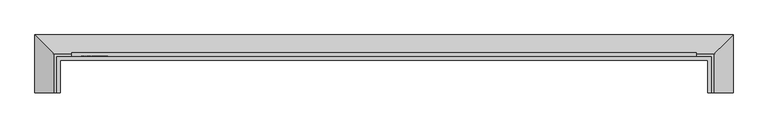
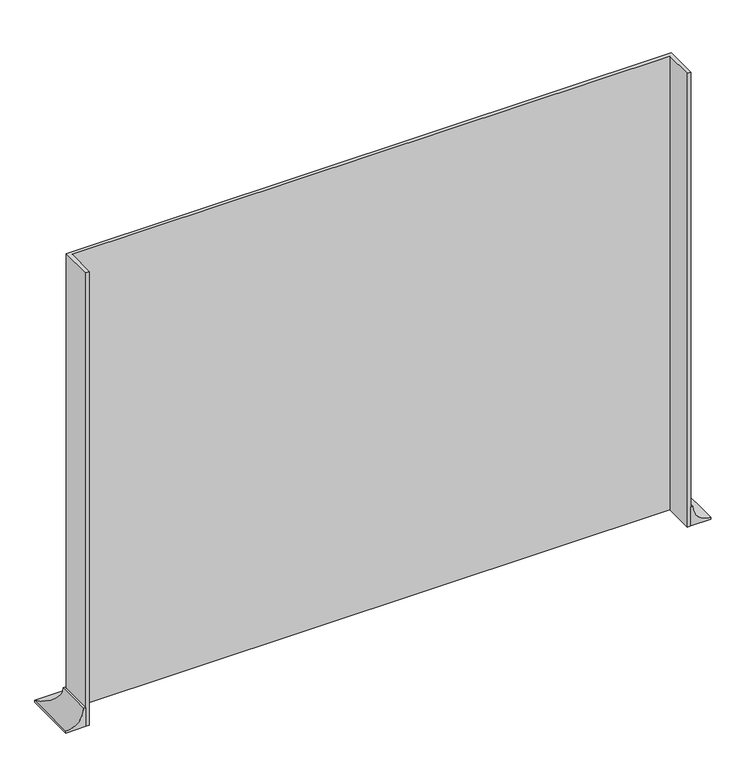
"""IFC4 building model written with IfcOpenShell, lengths in millimetres: furniture geometry, BIMHealth-Washstation_Dirty_Utility-LOD2A-v1 : BIMHealth-Washstation_Dirty_Utility-LOD2A-v1."""

from ifc_helpers import new_model, si_unit, frame, origin, origin_with_axes, place, context, project, spatial, polyline, circle_curve, ellipse_curve, outline, extrude, source, transform, mapped, element, save
from ifc_brep_helpers import plane_surface, revolved_surface, advanced_brep


def furniture_7d07dcaf(model_context):
    return source(origin(), model_context, "Body", "SolidModel", [
        advanced_brep(
        [(-900.0, 0.0, 100.0), (-910.0, 0.0, 100.0), (-1000.0, 0.0, 10.0), (-1000.0, 0.0, 0.0), (-900.0, 0.0, 0.0), (-900.0, 168.0, 0.0), (-900.0, 168.0, 100.0), (2130.0, 168.0, 0.0), (2130.0, 168.0, 100.0), (2130.0, 0.0, 100.0), (2130.0, 0.0, 0.0), (2230.0, 0.0, 0.0), (2230.0, 0.0, 10.0), (2140.0, 0.0, 100.0), (-1000.0, 268.0, 0.0), (2230.0, 268.0, 0.0), (-1000.0, 268.0, 10.0), (-910.0, 178.0, 100.0), (2140.0, 178.0, 100.0), (2230.0, 268.0, 10.0)],
        [
            (0, 1),
            (1, 2, circle_curve(frame((-1000.0, 0.0, 100.0), z_axis=(0.0, 1.0, 0.0), x_axis=(-1.0, 0.0, 0.0)), 90.0)),
            (2, 3),
            (3, 4),
            (4, 0),
            (4, 5),
            (5, 6),
            (6, 0),
            (5, 7),
            (7, 8),
            (8, 6),
            (9, 10),
            (10, 11),
            (11, 12),
            (12, 13, circle_curve(frame((2230.0, 0.0, 100.0), z_axis=(0.0, 1.0, 0.0), x_axis=(1.0, 0.0, 0.0)), 90.0)),
            (13, 9),
            (7, 10),
            (9, 8),
            (3, 14),
            (14, 15),
            (15, 11),
            (2, 16),
            (16, 14),
            (1, 17),
            (17, 16, ellipse_curve(frame((-1000.0, 268.0, 100.0), z_axis=(0.7071067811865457, 0.7071067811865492, 0.0), x_axis=(-0.7071067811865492, 0.7071067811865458, 0.0)), 127.2792206, 90.0)),
            (13, 18),
            (18, 17),
            (16, 19),
            (19, 15),
            (18, 19, ellipse_curve(frame((2230.0, 268.0, 100.0), z_axis=(0.7071067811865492, -0.7071067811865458, 0.0), x_axis=(0.7071067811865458, 0.7071067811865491, 0.0)), 127.2792206, 90.0)),
            (19, 12),
        ],
        [
            plane_surface(frame((-900.0, 0.0, 0.0), z_axis=(0.0, -1.0, 0.0), x_axis=(0.0, 0.0, 1.0))),
            plane_surface(frame((-900.0, 0.0, 100.0), z_axis=(1.0, 0.0, 0.0), x_axis=(0.0, 1.0, 0.0))),
            plane_surface(frame((-900.0, 168.0, 100.0), z_axis=(0.0, -1.0, 0.0), x_axis=(1.0, 0.0, 0.0))),
            plane_surface(frame((2130.0, 0.0, 0.0), z_axis=(0.0, -1.0, 0.0), x_axis=(0.0, 0.0, 1.0))),
            plane_surface(frame((2130.0, 168.0, 100.0), z_axis=(-1.0, 0.0, 0.0), x_axis=(0.0, -1.0, 0.0))),
            plane_surface(frame((-900.0, 0.0, 0.0), z_axis=(0.0, 0.0, -1.0), x_axis=(0.0, 1.0, 0.0))),
            plane_surface(frame((-1000.0, 0.0, 0.0), z_axis=(-1.0, 0.0, 0.0), x_axis=(0.0, 1.0, 0.0))),
            revolved_surface(polyline([(-1090.0, 357.9999999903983, 100.0), (-1090.0, 0.0, 100.0)]), (-1000.0, 0.0, 100.0), (0.0, 1.0, 0.0)),
            plane_surface(frame((-910.0, 0.0, 100.0), z_axis=(0.0, 0.0, 1.0), x_axis=(0.0, 1.0, 0.0))),
            plane_surface(frame((-1000.0, 268.0, 0.0), z_axis=(0.0, 1.0, 0.0), x_axis=(1.0, 0.0, 0.0))),
            revolved_surface(polyline([(2319.9999999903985, 358.0, 100.0), (-1089.9999999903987, 358.0, 100.0)]), (-900.0, 268.0, 100.0), (1.0, 0.0, 0.0)),
            plane_surface(frame((2230.0, 268.0, 0.0), z_axis=(1.0, 0.0, 0.0), x_axis=(0.0, -1.0, 0.0))),
            revolved_surface(polyline([(2320.0, 0.0, 100.0), (2320.0, 357.9999999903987, 100.0)]), (2230.0, 168.0, 100.0), (0.0, -1.0, 0.0)),
        ],
        [
            (0, [[1, 2, 3, 4, 5]]),
            (1, [[6, 7, 8, -5]]),
            (2, [[9, 10, 11, -7]]),
            (3, [[12, 13, 14, 15, 16]]),
            (4, [[17, -12, 18, -10]]),
            (5, [[19, 20, 21, -13, -17, -9, -6, -4]]),
            (6, [[22, 23, -19, -3]]),
            (7, [[24, 25, -22, -2]]),
            (8, [[-8, -11, -18, -16, 26, 27, -24, -1]]),
            (9, [[28, 29, -20, -23]]),
            (10, [[-27, 30, -28, -25]]),
            (11, [[31, -14, -21, -29]]),
            (12, [[-26, -15, -31, -30]]),
        ],
    ),
        extrude(outline(polyline([(2373.0972535, -785.4733843), (2373.0972535, -778.0166535), (2373.4361958, -774.8604035), (2374.4361958, -772.7185766), (2376.3208112, -771.2834804), (2378.9674458, -770.7041535), (2382.0299458, -771.5527112), (2383.8664843, -773.978192), (2385.6092727, -771.9805958), (2387.9097535, -771.3195381), (2390.4289843, -772.1055958), (2392.2102343, -774.2786728), (2392.7895612, -777.9589612), (2392.7895612, -785.4733843), (2373.0972535, -785.4733843)]), holes=[polyline([(2384.7895612, -783.0118458), (2390.3280227, -783.0118458), (2390.3280227, -778.8579997), (2390.0708112, -775.6945381), (2389.121292, -774.2762689), (2387.5155227, -773.7810766), (2385.9121574, -774.3123266), (2385.0010997, -775.8916535), (2384.7895612, -778.5166535), (2384.7895612, -783.0118458)]), polyline([(2375.558792, -783.0118458), (2382.3280227, -783.0118458), (2382.3280227, -778.2041535), (2381.9986958, -775.1632881), (2380.8568689, -773.6368458), (2378.9434074, -773.165692), (2376.1910035, -774.5911728), (2375.6549458, -776.1368458), (2375.558792, -777.9637689), (2375.558792, -783.0118458)])]), frame((0.0, 168.0, 0.0), z_axis=(0.0, 1.0, 0.0), x_axis=(0.0, 0.0, 1.0)), (0.0, 0.0, 1.0), 2.0),
        extrude(outline(polyline([(-764.5503074, 170.0), (-764.5503074, 168.0), (-767.0118458, 168.0), (-767.0118458, 170.0), (-764.5503074, 170.0)])), frame((0.0, 0.0, 2373.0972535), z_axis=(0.0, 0.0, 1.0), x_axis=(1.0, 0.0, 0.0)), (0.0, 0.0, 1.0), 19.6923077),
        extrude(outline(polyline([(2373.0972535, -759.6272304), (2373.0972535, -757.165692), (2390.3280227, -757.165692), (2373.0972535, -752.2137689), (2373.0972535, -748.8820381), (2390.3280227, -743.9349228), (2373.0972535, -743.9349228), (2373.0972535, -741.4733843), (2392.7895612, -741.4733843), (2392.7895612, -745.7089612), (2379.1501381, -749.6704997), (2376.0107151, -750.5503074), (2378.9097535, -751.3676151), (2392.7895612, -755.4060766), (2392.7895612, -759.6272304), (2373.0972535, -759.6272304)])), frame((0.0, 168.0, 0.0), z_axis=(0.0, 1.0, 0.0), x_axis=(0.0, 0.0, 1.0)), (0.0, 0.0, 1.0), 2.0),
        extrude(outline(polyline([(2373.0972535, -737.165692), (2373.0972535, -734.7041535), (2382.3280227, -734.7041535), (2382.3280227, -724.2426151), (2373.0972535, -724.2426151), (2373.0972535, -721.7810766), (2392.7895612, -721.7810766), (2392.7895612, -724.2426151), (2384.7895612, -724.2426151), (2384.7895612, -734.7041535), (2392.7895612, -734.7041535), (2392.7895612, -737.165692), (2373.0972535, -737.165692)])), frame((0.0, 168.0, 0.0), z_axis=(0.0, 1.0, 0.0), x_axis=(0.0, 0.0, 1.0)), (0.0, 0.0, 1.0), 2.0),
        extrude(outline(polyline([(2377.4049458, -707.6560766), (2375.7655227, -709.2426151), (2375.2510997, -711.6560766), (2376.3616766, -714.8267497), (2379.558792, -716.2426151), (2380.2222535, -705.165692), (2385.8616766, -707.0334804), (2387.8664843, -711.8435766), (2385.8568689, -716.7954997), (2380.2078304, -718.7041535), (2374.7390804, -716.8147304), (2372.7895612, -711.7041535), (2373.9193689, -707.4998266), (2377.0972535, -705.2426151), (2377.4049458, -707.6560766)]), holes=[polyline([(2382.0203304, -716.2426151), (2384.4842727, -714.884442), (2385.4049458, -711.853192), (2384.2510997, -708.6128074), (2382.0203304, -707.6272304), (2382.0203304, -716.2426151)])]), frame((0.0, 168.0, 0.0), z_axis=(0.0, 1.0, 0.0), x_axis=(0.0, 0.0, 1.0)), (0.0, 0.0, 1.0), 2.0),
        extrude(outline(polyline([(2374.9434074, -693.4733843), (2373.0972535, -692.8579997), (2373.0972535, -690.3964612), (2375.1669651, -690.8868458), (2379.4434074, -691.0118458), (2382.5059074, -691.0118458), (2384.6597535, -691.1320381), (2386.3304266, -691.8868458), (2387.4289843, -693.571942), (2387.8664843, -696.5551151), (2387.371292, -699.8027112), (2385.9626381, -701.946942), (2383.558792, -703.0118458), (2383.2510997, -700.5503074), (2384.9313881, -699.3628074), (2385.4049458, -696.8724228), (2384.6934074, -694.1512689), (2382.3280227, -693.4878074), (2381.4818689, -697.7570381), (2381.1116766, -699.8868458), (2380.3039843, -701.6104035), (2378.8905227, -702.8483843), (2376.9434074, -703.3195381), (2373.9578304, -702.071942), (2372.7895612, -698.4974228), (2373.2751381, -695.8604035), (2374.9434074, -693.4733843)]), holes=[polyline([(2379.5179266, -693.4805958), (2377.2655227, -693.8772304), (2375.840042, -695.4829997), (2375.2510997, -697.9733843), (2378.7126381, -699.5623266), (2379.1116766, -697.4445381), (2379.5179266, -693.4805958)])]), frame((0.0, 168.0, 0.0), z_axis=(0.0, 1.0, 0.0), x_axis=(0.0, 0.0, 1.0)), (0.0, 0.0, 1.0), 2.0),
        extrude(outline(polyline([(-685.165692, 170.0), (-685.165692, 168.0), (-687.6272304, 168.0), (-687.6272304, 170.0), (-685.165692, 170.0)])), frame((0.0, 0.0, 2373.0972535), z_axis=(0.0, 0.0, 1.0), x_axis=(1.0, 0.0, 0.0)), (0.0, 0.0, 1.0), 19.6923077),
        extrude(outline(polyline([(2376.1429266, -677.4733843), (2385.0972535, -678.7041535), (2385.0972535, -676.2426151), (2387.558792, -676.2426151), (2387.558792, -678.7041535), (2392.5203304, -678.7041535), (2391.0732151, -681.165692), (2387.558792, -681.165692), (2387.558792, -683.0118458), (2385.0972535, -683.0118458), (2385.0972535, -681.165692), (2377.0635997, -681.165692), (2373.1982151, -679.8387689), (2372.7895612, -677.7762689), (2373.0251381, -675.9349228), (2376.1429266, -677.4733843)])), frame((0.0, 168.0, 0.0), z_axis=(0.0, 1.0, 0.0), x_axis=(0.0, 0.0, 1.0)), (0.0, 0.0, 1.0), 2.0),
        extrude(outline(polyline([(2373.0972535, -673.7810766), (2373.0972535, -671.3195381), (2380.7799458, -671.3195381), (2383.371292, -670.9180958), (2384.8568689, -669.571942), (2385.4049458, -667.5551151), (2384.5924458, -665.3339612), (2381.996292, -664.5503074), (2373.0972535, -664.5503074), (2373.0972535, -662.0887689), (2382.2510997, -662.0887689), (2385.4866766, -662.5935766), (2387.2342727, -664.2714612), (2387.8664843, -667.0358843), (2385.5491766, -671.3195381), (2392.7895612, -671.3195381), (2392.7895612, -673.7810766), (2373.0972535, -673.7810766)])), frame((0.0, 168.0, 0.0), z_axis=(0.0, 1.0, 0.0), x_axis=(0.0, 0.0, 1.0)), (0.0, 0.0, 1.0), 2.0),
        extrude(outline(polyline([(2060.0, 168.0), (-830.0, 168.0), (-830.0, 186.0), (2060.0, 186.0), (2060.0, 168.0)])), frame((0.0, 0.0, 1850.0), z_axis=(0.0, 0.0, 1.0), x_axis=(1.0, 0.0, 0.0)), (0.0, 0.0, 1.0), 400.0),
        extrude(outline(polyline([(2060.0, 168.0), (-830.0, 168.0), (-830.0, 186.0), (2060.0, 186.0), (2060.0, 168.0)])), frame((0.0, 0.0, 1200.0), z_axis=(0.0, 0.0, 1.0), x_axis=(1.0, 0.0, 0.0)), (0.0, 0.0, 1.0), 650.0),
        extrude(outline(polyline([(2060.0, 168.0), (-830.0, 168.0), (-830.0, 186.0), (2060.0, 186.0), (2060.0, 168.0)])), frame((0.0, 0.0, 550.0), z_axis=(0.0, 0.0, 1.0), x_axis=(1.0, 0.0, 0.0)), (0.0, 0.0, 1.0), 650.0),
        extrude(outline(polyline([(2060.0, 168.0), (-830.0, 168.0), (-830.0, 186.0), (2060.0, 186.0), (2060.0, 168.0)])), frame((0.0, 0.0, 150.0), z_axis=(0.0, 0.0, 1.0), x_axis=(1.0, 0.0, 0.0)), (0.0, 0.0, 1.0), 400.0),
        extrude(outline(polyline([(-900.0, 168.0), (2130.0, 168.0), (2130.0, 0.0), (2112.0, 0.0), (2112.0, 150.0), (-882.0, 150.0), (-882.0, 0.0), (-900.0, 0.0), (-900.0, 168.0)])), origin_with_axes(), (0.0, 0.0, 1.0), 2400.0),
    ])


if __name__ == "__main__":
    model = new_model("IFC4")
    model_context = context("Model", 3, world=origin())
    ifc_project = project(units=[si_unit("LENGTHUNIT", "METRE", prefix="MILLI")], contexts=[model_context])
    site = spatial("IfcSite", under=ifc_project)
    building = spatial("IfcBuilding", under=site)
    placement = place(None, origin())
    furniture_shape = furniture_7d07dcaf(model_context)
    element("IfcFurniture", 1, ObjectType="BIMHealth-Washstation_Dirty_Utility-LOD2A-v1 : BIMHealth-Washstation_Dirty_Utility-LOD2A-v1", at=placement, inside=building, context=model_context, shape_type="MappedRepresentation", body=[
        mapped(furniture_shape, transform((0.0, 0.0, 0.0), x_axis=(1.0, 0.0, 0.0), y_axis=(0.0, 1.0, 0.0), z_axis=(0.0, 0.0, 1.0))),
    ])
    save(model, "model.ifc")
